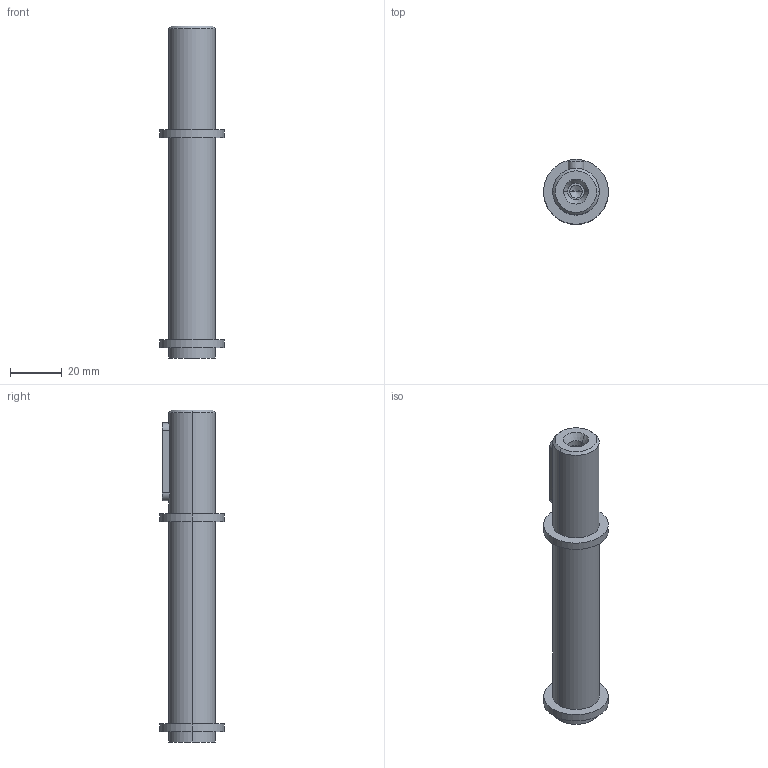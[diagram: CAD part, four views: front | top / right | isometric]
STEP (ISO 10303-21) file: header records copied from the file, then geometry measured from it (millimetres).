
FILE_DESCRIPTION (( 'STEP AP214' ), '1' );
FILE_NAME ('Ausgangswelle_CMRV040-k.STEP', '2013-01-29T13:36:48', ( 'Frank Wennekamp' ), ( '' ), 'SwSTEP 2.0', 'SolidWorks 2012', '' );
FILE_SCHEMA (( 'AUTOMOTIVE_DESIGN' ));
Length unit declared in the file: millimetre
Products named in the file (1): Ausgangswelle_CMRV040-k
Bounding box: 25 x 25 x 128 mm (x, y, z)
Volume: 33896.3 mm3; surface area: 9318.9 mm2
Topology: 1 solids, 1 shells, 33 faces, 69 edges, 43 vertices
Faces by surface type: cylinder 17, plane 10, cone 6
Entity records: 1326 total; most frequent: CARTESIAN_POINT 203, DIRECTION 167, ORIENTED_EDGE 134, AXIS2_PLACEMENT_3D 69, EDGE_CURVE 67, VERTEX_POINT 43, EDGE_LOOP 40, UNCERTAINTY_MEASURE_WITH_UNIT 36
